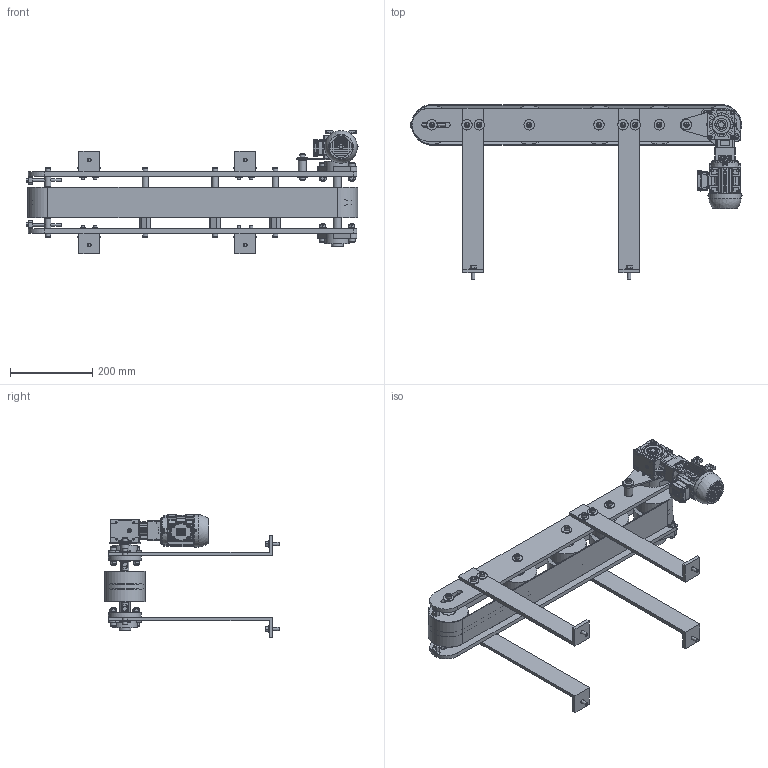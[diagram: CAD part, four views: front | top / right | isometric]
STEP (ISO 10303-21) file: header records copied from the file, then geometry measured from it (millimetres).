
FILE_DESCRIPTION(/* description */ (''),/* implementation_level */ '2;1');
FILE_NAME(/* name */ 'beltconveyor_a082_w120_l690.stp',/* time_stamp */ '2025-01-01T12:00:38+08:00',/* author */ (''),/* organization */ (''),/* preprocessor_version */ 'ST-DEVELOPER v16.7',/* originating_system */ 'SIEMENS PLM Software NX 12.0',/* authorisation */ '');
FILE_SCHEMA (('AUTOMOTIVE_DESIGN { 1 0 10303 214 3 1 1 1 }'));
Products named in the file (27): marine conveyor-Yan Frame_Varsay_lan_id242; marine conveyor-Rulmanl_ Tambur_Varsay_lan_id225; marine conveyor-6202ZC3   F_D Rulman_Varsay_lan_id220; marine conveyor-Motor_Varsay_lan_id212; marine conveyor-Motor_Varsay_lan_id207; marine conveyor-Motor_Varsay_lan_id202; marine conveyor-Kay___Varsay_lan_id195; marine conveyor-Motor Ba_lant_ Aparat__Varsay_lan_id190; marine conveyor-Motor Ba_lant_ Mili_Varsay_lan_id185; marine conveyor-Motor Mili_Varsay_lan_id180; marine conveyor-Motor Tambur_Varsay_lan_id175; marine conveyor-Yan Frame aynalanm__ hali _Varsay_lan_id170; marine conveyor-FL204   SRA-Yatakl_ Rulman_Varsay_lan_id165; marine conveyor-Bant Ba_lama Aparat__Varsay_lan_id156; marine conveyor-Tambur Ba_lama Mili_Varsay_lan_id147; marine conveyor-M_L PAR_ASI-_Varsay_lan_id142; socket head cap screw_am_B18.3.1M - 10 x 1.5 x 35 Hex SHCS -- 35NHX_i
d131; hex flange nut_am_B18.2.2.4M - Hex flange nut, M10 x 1.5, with 15 WAF
 --N_id120; socket head cap screw_am_B18.3.1M - 8 x 1.25 x 16 Hex SHCS -- 16NHX_i
d79; flat washer regular_am_B18.22M - Plain washer, 8 mm, regular_id54; hex nut jam_am_B18.2.4.5M - Hex jam nut,  M8 x 1.25 --D-N_id31; socket head cap screw_am_B18.3.1M - 8 x 1.25 x 30 Hex SHCS -- 30NHX_i
d24; marine conveyor-M6 X 120mm Alt_gen Civata_Varsay_lan_id17; heavy hex flange screw_am_B18.2.3.9M - Heavy hex flange screw, M8 x 1.
25 x 25 --25N_id6; marine conveyor-sdf_Varsay_lan_id237; marine conveyor-Montaj2_Varsay_lan_id217; beltconveyor_a082_w120_l690
Assembly tree (84 placements, depth 3):
  beltconveyor_a082_w120_l690
    heavy hex flange screw_am_B18.2.3.9M - Heavy hex flange screw, M8 x 1.
25 x 25 --25N_id6  x4
    marine conveyor-M6 X 120mm Alt_gen Civata_Varsay_lan_id17  x2
    socket head cap screw_am_B18.3.1M - 8 x 1.25 x 30 Hex SHCS -- 30NHX_i
d24  x14
    hex nut jam_am_B18.2.4.5M - Hex jam nut,  M8 x 1.25 --D-N_id31  x6
    flat washer regular_am_B18.22M - Plain washer, 8 mm, regular_id54  x18
    socket head cap screw_am_B18.3.1M - 8 x 1.25 x 16 Hex SHCS -- 16NHX_i
d79  x4
    hex flange nut_am_B18.2.2.4M - Hex flange nut, M10 x 1.5, with 15 WAF
 --N_id120  x4
    socket head cap screw_am_B18.3.1M - 10 x 1.5 x 35 Hex SHCS -- 35NHX_i
d131  x4
    marine conveyor-M_L PAR_ASI-_Varsay_lan_id142
    marine conveyor-Tambur Ba_lama Mili_Varsay_lan_id147  x3
    marine conveyor-Bant Ba_lama Aparat__Varsay_lan_id156  x4
    marine conveyor-FL204   SRA-Yatakl_ Rulman_Varsay_lan_id165
    marine conveyor-Yan Frame aynalanm__ hali _Varsay_lan_id170
    marine conveyor-Motor Tambur_Varsay_lan_id175
    marine conveyor-Motor Mili_Varsay_lan_id180
    marine conveyor-Motor Ba_lant_ Mili_Varsay_lan_id185
    marine conveyor-Motor Ba_lant_ Aparat__Varsay_lan_id190
    marine conveyor-Kay___Varsay_lan_id195
    marine conveyor-Motor_Varsay_lan_id202
    marine conveyor-Motor_Varsay_lan_id207
    marine conveyor-Motor_Varsay_lan_id212
    marine conveyor-Montaj2_Varsay_lan_id217  x4
      marine conveyor-6202ZC3   F_D Rulman_Varsay_lan_id220
      marine conveyor-Rulmanl_ Tambur_Varsay_lan_id225
    marine conveyor-sdf_Varsay_lan_id237
      marine conveyor-FL204   SRA-Yatakl_ Rulman_Varsay_lan_id165
      marine conveyor-Yan Frame_Varsay_lan_id242
Bounding box: 808.8 x 426 x 299.91 mm (x, y, z)
Volume: 5935390.7 mm3; surface area: 1333061.7 mm2
Topology: 124 solids, 153 shells, 6097 faces, 15134 edges, 9783 vertices
Faces by surface type: plane 3174, bspline 1004, cylinder 877, cone 489, extrusion 369, torus 169, sphere 15
Full cylindrical faces by diameter (mm): 1.25 x4, 2.5 x4, 3 x8, 3.233 x4, 3.4 x16, 4.25 x4, 4.5 x4, 4.75 x7, 5 x21, 5.5 x12, 6 x6, 6.5 x1, 6.8 x6, 7 x10, 7.35 x1, 7.5 x4, 8 x41, 8.5 x6, 9 x26, 9.12 x18, 9.3 x1, 9.5 x13, 9.975 x2, 10 x10, 11.7 x4, 12 x4, 13 x25, 14 x2, 15 x17, 16 x5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
Entity records: 154525 total; most frequent: CARTESIAN_POINT 54885, ORIENTED_EDGE 18858, DIRECTION 16033, EDGE_CURVE 9429, VERTEX_POINT 6312, VECTOR 5443, AXIS2_PLACEMENT_3D 5295, LINE 5074
